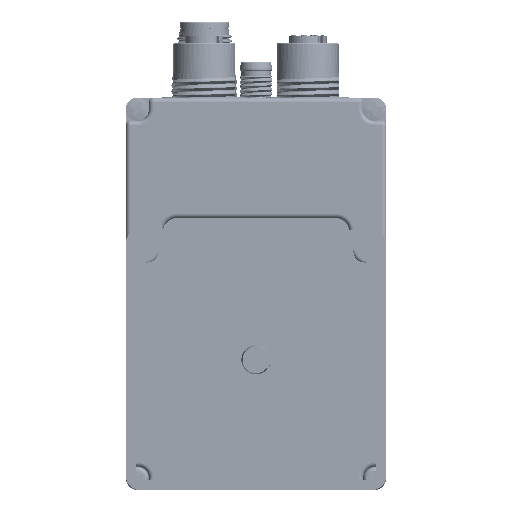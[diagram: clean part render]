
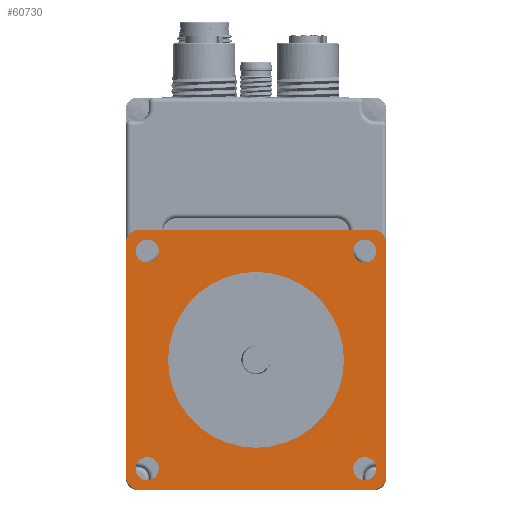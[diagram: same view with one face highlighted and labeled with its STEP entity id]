
A CAD part, front view. The second image highlights one B-rep face of the part: STEP entity #60730.
In plain terms, the highlighted planar face has unit normal (0, -1, 0).
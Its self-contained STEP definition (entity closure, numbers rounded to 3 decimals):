
#6217=CIRCLE('',#79189,19.05);
#6218=CIRCLE('',#79191,3.);
#6219=CIRCLE('',#79192,3.);
#6220=CIRCLE('',#79193,3.);
#6221=CIRCLE('',#79194,3.);
#6222=CIRCLE('',#79195,2.5);
#6223=CIRCLE('',#79196,2.5);
#6224=CIRCLE('',#79197,2.5);
#6225=CIRCLE('',#79198,2.5);
#23461=ORIENTED_EDGE('',*,*,#32608,.T.);
#23462=ORIENTED_EDGE('',*,*,#32609,.F.);
#23463=ORIENTED_EDGE('',*,*,#32610,.T.);
#23464=ORIENTED_EDGE('',*,*,#32611,.F.);
#23465=ORIENTED_EDGE('',*,*,#32612,.T.);
#23466=ORIENTED_EDGE('',*,*,#32613,.F.);
#23467=ORIENTED_EDGE('',*,*,#32614,.T.);
#23468=ORIENTED_EDGE('',*,*,#32615,.F.);
#23469=ORIENTED_EDGE('',*,*,#32607,.F.);
#23470=ORIENTED_EDGE('',*,*,#32616,.F.);
#23471=ORIENTED_EDGE('',*,*,#32617,.F.);
#23472=ORIENTED_EDGE('',*,*,#32618,.F.);
#23473=ORIENTED_EDGE('',*,*,#32619,.F.);
#32607=EDGE_CURVE('',#38721,#38721,#6217,.T.);
#32608=EDGE_CURVE('',#38722,#38723,#43234,.T.);
#32609=EDGE_CURVE('',#38724,#38723,#6218,.T.);
#32610=EDGE_CURVE('',#38724,#38725,#43235,.T.);
#32611=EDGE_CURVE('',#38726,#38725,#6219,.T.);
#32612=EDGE_CURVE('',#38726,#38727,#43236,.T.);
#32613=EDGE_CURVE('',#38728,#38727,#6220,.T.);
#32614=EDGE_CURVE('',#38728,#38729,#43237,.T.);
#32615=EDGE_CURVE('',#38722,#38729,#6221,.T.);
#32616=EDGE_CURVE('',#38730,#38730,#6222,.T.);
#32617=EDGE_CURVE('',#38731,#38731,#6223,.T.);
#32618=EDGE_CURVE('',#38732,#38732,#6224,.T.);
#32619=EDGE_CURVE('',#38733,#38733,#6225,.T.);
#38721=VERTEX_POINT('',#166525);
#38722=VERTEX_POINT('',#166528);
#38723=VERTEX_POINT('',#166529);
#38724=VERTEX_POINT('',#166531);
#38725=VERTEX_POINT('',#166533);
#38726=VERTEX_POINT('',#166535);
#38727=VERTEX_POINT('',#166537);
#38728=VERTEX_POINT('',#166539);
#38729=VERTEX_POINT('',#166541);
#38730=VERTEX_POINT('',#166544);
#38731=VERTEX_POINT('',#166546);
#38732=VERTEX_POINT('',#166548);
#38733=VERTEX_POINT('',#166550);
#43234=LINE('',#166527,#47723);
#43235=LINE('',#166532,#47724);
#43236=LINE('',#166536,#47725);
#43237=LINE('',#166540,#47726);
#47723=VECTOR('',#92037,1000.);
#47724=VECTOR('',#92040,1000.);
#47725=VECTOR('',#92043,1000.);
#47726=VECTOR('',#92046,1000.);
#51708=EDGE_LOOP('',(#23461,#23462,#23463,#23464,#23465,#23466,#23467,#23468));
#51709=EDGE_LOOP('',(#23469));
#51710=EDGE_LOOP('',(#23470));
#51711=EDGE_LOOP('',(#23471));
#51712=EDGE_LOOP('',(#23472));
#51713=EDGE_LOOP('',(#23473));
#55687=FACE_BOUND('',#51708,.T.);
#55688=FACE_BOUND('',#51709,.T.);
#55689=FACE_BOUND('',#51710,.T.);
#55690=FACE_BOUND('',#51711,.T.);
#55691=FACE_BOUND('',#51712,.T.);
#55692=FACE_BOUND('',#51713,.T.);
#57412=PLANE('',#79190);
#60730=ADVANCED_FACE('',(#55687,#55688,#55689,#55690,#55691,#55692),#57412,
 .T.);
#79189=AXIS2_PLACEMENT_3D('',#166524,#92033,#92034);
#79190=AXIS2_PLACEMENT_3D('',#166526,#92035,#92036);
#79191=AXIS2_PLACEMENT_3D('',#166530,#92038,#92039);
#79192=AXIS2_PLACEMENT_3D('',#166534,#92041,#92042);
#79193=AXIS2_PLACEMENT_3D('',#166538,#92044,#92045);
#79194=AXIS2_PLACEMENT_3D('',#166542,#92047,#92048);
#79195=AXIS2_PLACEMENT_3D('',#166543,#92049,#92050);
#79196=AXIS2_PLACEMENT_3D('',#166545,#92051,#92052);
#79197=AXIS2_PLACEMENT_3D('',#166547,#92053,#92054);
#79198=AXIS2_PLACEMENT_3D('',#166549,#92055,#92056);
#92033=DIRECTION('',(0.,-1.,0.));
#92034=DIRECTION('',(1.,0.,0.));
#92035=DIRECTION('',(0.,-1.,0.));
#92036=DIRECTION('',(-1.,0.,0.));
#92037=DIRECTION('',(-1.,0.,0.));
#92038=DIRECTION('',(0.,1.,0.));
#92039=DIRECTION('',(-1.,0.,0.));
#92040=DIRECTION('',(0.,0.,-1.));
#92041=DIRECTION('',(0.,1.,0.));
#92042=DIRECTION('',(0.,0.,-1.));
#92043=DIRECTION('',(1.,0.,0.));
#92044=DIRECTION('',(0.,1.,0.));
#92045=DIRECTION('',(1.,0.,0.));
#92046=DIRECTION('',(0.,0.,1.));
#92047=DIRECTION('',(0.,1.,0.));
#92048=DIRECTION('',(0.,0.,1.));
#92049=DIRECTION('',(0.,-1.,0.));
#92050=DIRECTION('',(-1.,0.,0.));
#92051=DIRECTION('',(0.,-1.,0.));
#92052=DIRECTION('',(-1.,0.,0.));
#92053=DIRECTION('',(0.,-1.,0.));
#92054=DIRECTION('',(-1.,0.,0.));
#92055=DIRECTION('',(0.,-1.,0.));
#92056=DIRECTION('',(-1.,0.,0.));
#166524=CARTESIAN_POINT('',(0.,1.6,0.));
#166525=CARTESIAN_POINT('',(19.05,1.6,0.));
#166526=CARTESIAN_POINT('',(0.,1.6,0.));
#166527=CARTESIAN_POINT('',(25.2,1.6,28.2));
#166528=CARTESIAN_POINT('',(25.2,1.6,28.2));
#166529=CARTESIAN_POINT('',(-25.2,1.6,28.2));
#166530=CARTESIAN_POINT('',(-25.2,1.6,25.2));
#166531=CARTESIAN_POINT('',(-28.2,1.6,25.2));
#166532=CARTESIAN_POINT('',(-28.2,1.6,25.2));
#166533=CARTESIAN_POINT('',(-28.2,1.6,-25.2));
#166534=CARTESIAN_POINT('',(-25.2,1.6,-25.2));
#166535=CARTESIAN_POINT('',(-25.2,1.6,-28.2));
#166536=CARTESIAN_POINT('',(-25.2,1.6,-28.2));
#166537=CARTESIAN_POINT('',(25.2,1.6,-28.2));
#166538=CARTESIAN_POINT('',(25.2,1.6,-25.2));
#166539=CARTESIAN_POINT('',(28.2,1.6,-25.2));
#166540=CARTESIAN_POINT('',(28.2,1.6,-25.2));
#166541=CARTESIAN_POINT('',(28.2,1.6,25.2));
#166542=CARTESIAN_POINT('',(25.2,1.6,25.2));
#166543=CARTESIAN_POINT('',(-23.57,1.6,23.57));
#166544=CARTESIAN_POINT('',(-26.07,1.6,23.57));
#166545=CARTESIAN_POINT('',(23.57,1.6,23.57));
#166546=CARTESIAN_POINT('',(21.07,1.6,23.57));
#166547=CARTESIAN_POINT('',(23.57,1.6,-23.57));
#166548=CARTESIAN_POINT('',(21.07,1.6,-23.57));
#166549=CARTESIAN_POINT('',(-23.57,1.6,-23.57));
#166550=CARTESIAN_POINT('',(-26.07,1.6,-23.57));
